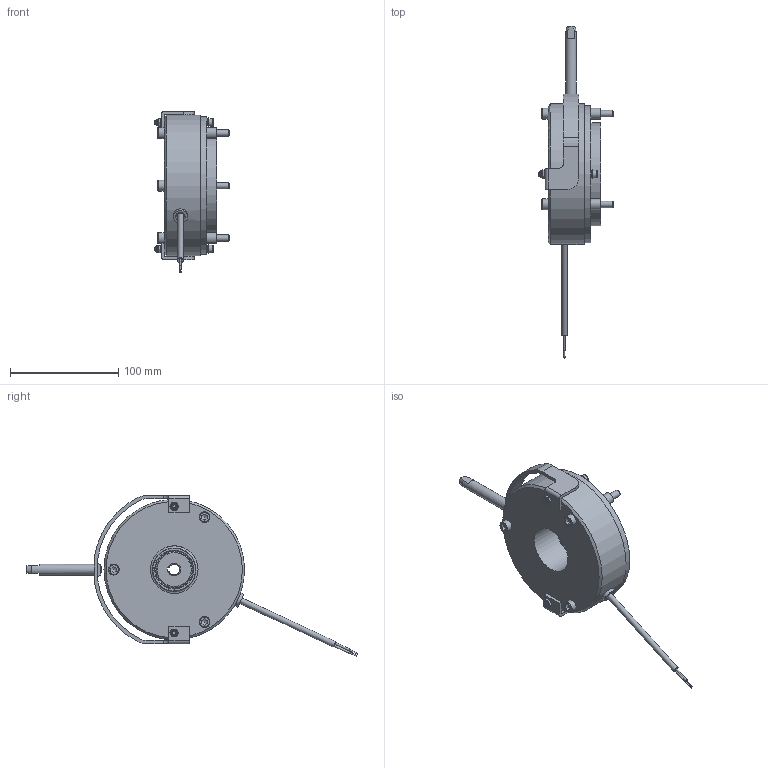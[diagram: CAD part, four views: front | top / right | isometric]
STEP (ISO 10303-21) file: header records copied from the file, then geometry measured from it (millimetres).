
FILE_DESCRIPTION(/* description */ (''),/* implementation_level */ '2;1');
FILE_NAME(/* name */ 'C:\SapWorkDir\Inventor\IP1\ConvertTempPath\5028670_IPT_000.ipt.stp',/* time_stamp */ '2020-09-16T15:17:40+02:00',/* author */ ('STRATE'),/* organization */ (''),/* preprocessor_version */ 'ST-DEVELOPER v17',/* originating_system */ 'Autodesk Inventor 2018',/* authorisation */ '');
FILE_SCHEMA (('AUTOMOTIVE_DESIGN { 1 0 10303 214 3 1 1 }'));
Length unit declared in the file: millimetre
Products named in the file (1): 5028670
Bounding box: 68.7 x 306.79 x 148.81 mm (x, y, z)
Volume: 545221.6 mm3; surface area: 112284.2 mm2
Topology: 3 solids, 3 shells, 463 faces, 1266 edges, 855 vertices
Faces by surface type: cylinder 285, plane 128, cone 37, torus 11, bspline 2
Full cylindrical faces by diameter (mm): 1 x2, 1.85 x2, 4 x4, 4.134 x2, 4.3 x2, 5 x2, 5.3 x1, 5.4 x2, 5.95 x2, 6 x4, 6.4 x3, 6.6 x1, 7 x5, 7.3 x2, 9 x2, 10 x7, 10.8 x6, 13.2 x1, 44 x2, 65.7 x2, 66.1 x2, 95 x1, 127 x1, 130 x1
Entity records: 17749 total; most frequent: CARTESIAN_POINT 5461, ORIENTED_EDGE 2526, DIRECTION 2386, EDGE_CURVE 1263, AXIS2_PLACEMENT_3D 960, VERTEX_POINT 855, EDGE_LOOP 542, CIRCLE 498
